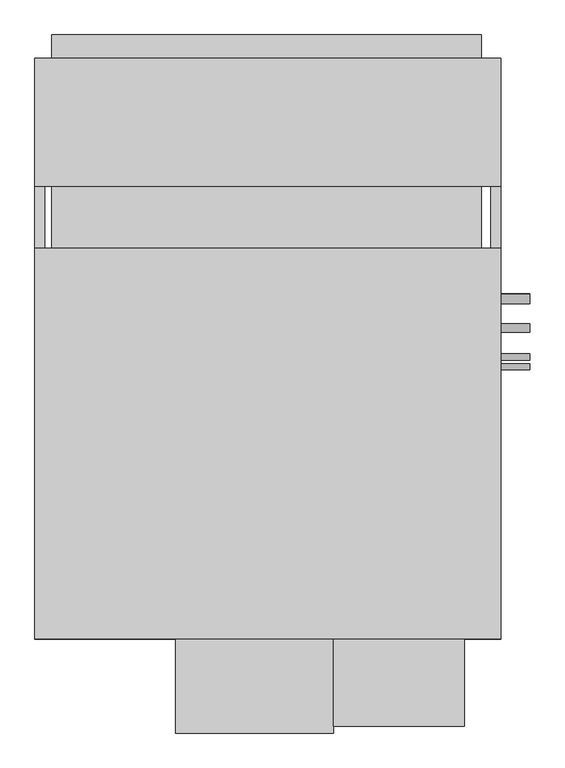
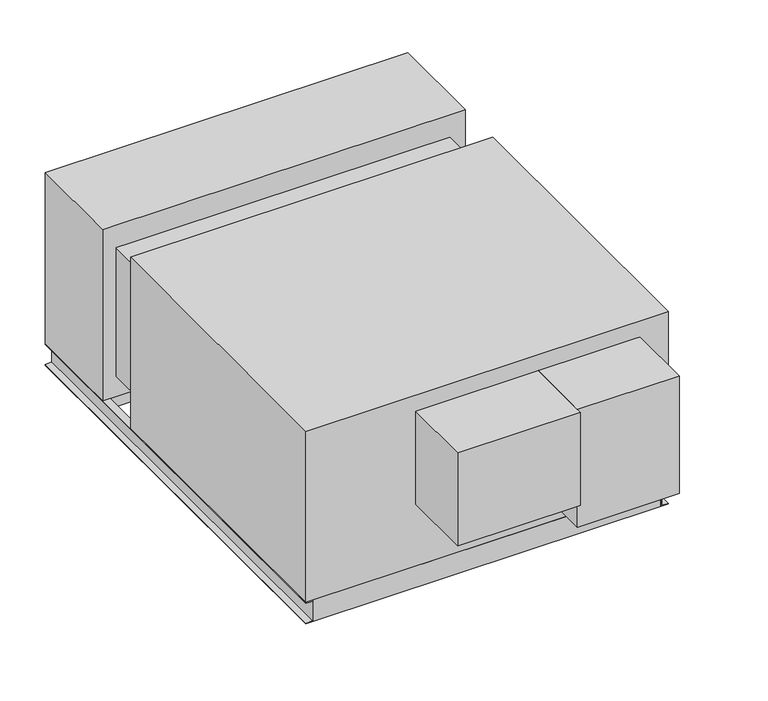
"""IFC4 building model written with IfcOpenShell, lengths in millimetres: proxy geometry, Horizontal_Direct_Drive_Blower_Coil_Unit_-_42DHA_-_CARRIER_-_4-Pipe_NFilterR_W-MixingBox_RH_2022 : Size 20 - 460v/60Hz/3Ph - 6/2 Coil."""

from ifc_helpers import new_model, si_unit, point, frame, frame_2d, origin, place, context, project, spatial, polyline, circle_curve, trimmed, segment, composite_curve, outline, extrude, source, transform, mapped, element, save


def mechanical_equipment_4713f80c(model_context):
    return source(origin(), model_context, "Body", "SweptSolid", [
        extrude(outline(polyline([(101.6, 887.095), (101.6, 683.895), (-1022.35, 683.895), (-1022.35, 887.095), (101.6, 887.095)])), frame((0.0, 0.0, -670.56), z_axis=(0.0, 0.0, 1.0), x_axis=(1.0, 0.0, 0.0)), (0.0, 0.0, 1.0), 60.96),
        extrude(outline(polyline([(-1022.35, 1049.655), (101.6, 1049.655), (101.6, 988.695), (-1022.35, 988.695), (-1022.35, 1049.655)])), frame((0.0, 0.0, -279.4), z_axis=(0.0, 0.0, 1.0), x_axis=(1.0, 0.0, 0.0)), (0.0, 0.0, 1.0), 203.2),
        extrude(outline(polyline([(152.4, 988.695), (152.4, 654.05), (-1066.8, 654.05), (-1066.8, 988.695), (152.4, 988.695)])), frame((0.0, 0.0, -609.6), z_axis=(0.0, 0.0, 1.0), x_axis=(1.0, 0.0, 0.0)), (0.0, 0.0, 1.0), 609.6),
        extrude(outline(polyline([(127.0, -504.825), (127.0, -530.225), (-1041.4, -530.225), (-1041.4, -504.825), (127.0, -504.825)])), frame((0.0, 0.0, -685.8), z_axis=(0.0, 0.0, 1.0), x_axis=(1.0, 0.0, 0.0)), (0.0, 0.0, 1.0), 76.2),
        extrude(outline(polyline([(127.0, 988.695), (127.0, 963.295), (-1041.4, 963.295), (-1041.4, 988.695), (127.0, 988.695)])), frame((0.0, 0.0, -685.8), z_axis=(0.0, 0.0, 1.0), x_axis=(1.0, 0.0, 0.0)), (0.0, 0.0, 1.0), 76.2),
        extrude(outline(polyline([(-609.6, -1041.4), (-609.6, -1066.8), (-612.775, -1066.8), (-612.775, -1044.575), (-682.625, -1044.575), (-682.625, -1066.8), (-685.8, -1066.8), (-685.8, -1041.4), (-609.6, -1041.4)])), frame((0.0, -530.225, 0.0), z_axis=(0.0, 1.0, 0.0), x_axis=(0.0, 0.0, 1.0)), (0.0, 0.0, 1.0), 1518.92),
        extrude(outline(polyline([(-609.6, 127.0), (-685.8, 127.0), (-685.8, 152.4), (-682.625, 152.4), (-682.625, 130.175), (-612.775, 130.175), (-612.775, 152.4), (-609.6, 152.4), (-609.6, 127.0)])), frame((0.0, -530.225, 0.0), z_axis=(0.0, 1.0, 0.0), x_axis=(0.0, 0.0, 1.0)), (0.0, 0.0, 1.0), 1518.92),
        extrude(outline(composite_curve([segment(trimmed(circle_curve(frame_2d((358.775, -177.8)), 12.7), [point((371.475, -177.8))], [point((346.075, -177.8))], False, "CARTESIAN"), True, "CONTINUOUS"), segment(trimmed(circle_curve(frame_2d((358.775, -177.8)), 12.7), [point((346.075, -177.8))], [point((371.475, -177.8))], False, "CARTESIAN"), True, "CONTINUOUS")], self_intersect=False)), frame((152.4, 0.0, 0.0), z_axis=(1.0, 0.0, 0.0), x_axis=(0.0, 1.0, 0.0)), (0.0, 0.0, 1.0), 76.2),
        extrude(outline(composite_curve([segment(trimmed(circle_curve(frame_2d((359.642288, -482.6)), 12.7), [point((372.342288, -482.6))], [point((346.942288, -482.6))], False, "CARTESIAN"), True, "CONTINUOUS"), segment(trimmed(circle_curve(frame_2d((359.642288, -482.6)), 12.7), [point((346.942288, -482.6))], [point((372.342288, -482.6))], False, "CARTESIAN"), True, "CONTINUOUS")], self_intersect=False)), frame((152.4, 0.0, 0.0), z_axis=(1.0, 0.0, 0.0), x_axis=(0.0, 1.0, 0.0)), (0.0, 0.0, 1.0), 76.2),
        extrude(outline(composite_curve([segment(trimmed(circle_curve(frame_2d((283.442288, -565.15)), 11.1125), [point((294.554788, -565.15))], [point((272.329788, -565.15))], False, "CARTESIAN"), True, "CONTINUOUS"), segment(trimmed(circle_curve(frame_2d((283.442288, -565.15)), 11.1125), [point((272.329788, -565.15))], [point((294.554788, -565.15))], False, "CARTESIAN"), True, "CONTINUOUS")], self_intersect=False)), frame((152.4, 0.0, 0.0), z_axis=(1.0, 0.0, 0.0), x_axis=(0.0, 1.0, 0.0)), (0.0, 0.0, 1.0), 76.2),
        extrude(outline(composite_curve([segment(trimmed(circle_curve(frame_2d((207.242288, -228.6)), 7.9375), [point((215.179788, -228.6))], [point((199.304788, -228.6))], False, "CARTESIAN"), True, "CONTINUOUS"), segment(trimmed(circle_curve(frame_2d((207.242288, -228.6)), 7.9375), [point((199.304788, -228.6))], [point((215.179788, -228.6))], False, "CARTESIAN"), True, "CONTINUOUS")], self_intersect=False)), frame((152.4, 0.0, 0.0), z_axis=(1.0, 0.0, 0.0), x_axis=(0.0, 1.0, 0.0)), (0.0, 0.0, 1.0), 76.2),
        extrude(outline(composite_curve([segment(trimmed(circle_curve(frame_2d((181.842288, -432.0792556)), 7.9375), [point((189.779788, -432.0792556))], [point((173.904788, -432.0792556))], False, "CARTESIAN"), True, "CONTINUOUS"), segment(trimmed(circle_curve(frame_2d((181.842288, -432.0792556)), 7.9375), [point((173.904788, -432.0792556))], [point((189.779788, -432.0792556))], False, "CARTESIAN"), True, "CONTINUOUS")], self_intersect=False)), frame((152.4, 0.0, 0.0), z_axis=(1.0, 0.0, 0.0), x_axis=(0.0, 1.0, 0.0)), (0.0, 0.0, 1.0), 76.2),
        extrude(outline(polyline([(152.4, 492.125), (152.4, -530.225), (-1066.8, -530.225), (-1066.8, 492.125), (152.4, 492.125)])), frame((0.0, 0.0, -609.6), z_axis=(0.0, 0.0, 1.0), x_axis=(1.0, 0.0, 0.0)), (0.0, 0.0, 1.0), 609.6),
        extrude(outline(polyline([(57.15, -758.825), (-285.75, -758.825), (-285.75, -530.225), (57.15, -530.225), (57.15, -758.825)])), frame((0.0, 0.0, -476.25), z_axis=(0.0, 0.0, 1.0), x_axis=(1.0, 0.0, 0.0)), (0.0, 0.0, 1.0), 419.1),
        extrude(outline(polyline([(-1022.35, 654.05), (101.6, 654.05), (101.6, 492.125), (-1022.35, 492.125), (-1022.35, 654.05)])), frame((0.0, 0.0, -536.575), z_axis=(0.0, 0.0, 1.0), x_axis=(1.0, 0.0, 0.0)), (0.0, 0.0, 1.0), 457.2),
        extrude(outline(polyline([(-285.75, -776.2875), (-698.5, -776.2875), (-698.5, -530.225), (-285.75, -530.225), (-285.75, -776.2875)])), frame((0.0, 0.0, -387.35), z_axis=(0.0, 0.0, 1.0), x_axis=(1.0, 0.0, 0.0)), (0.0, 0.0, 1.0), 330.2),
    ])


if __name__ == "__main__":
    model = new_model("IFC4")
    model_context = context("Model", 3, world=origin())
    ifc_project = project(units=[si_unit("LENGTHUNIT", "METRE", prefix="MILLI")], contexts=[model_context])
    site = spatial("IfcSite", under=ifc_project)
    building = spatial("IfcBuilding", under=site)
    placement = place(None, origin())
    mechanical_equipment_shape = mechanical_equipment_4713f80c(model_context)
    element("IfcBuildingElementProxy", 1, Name="Horizontal_Direct_Drive_Blower_Coil_Unit_-_42DHA_-_CARRIER_-_4-Pipe_NFilterR_W-MixingBox_RH_2022 : Size 20 - 460v/60Hz/3Ph - 6/2 Coil", ObjectType="Horizontal_Direct_Drive_Blower_Coil_Unit_-_42DHA_-_CARRIER_-_4-Pipe_NFilterR_W-MixingBox_RH_2022 : Size 20 - 460v/60Hz/3Ph - 6/2 Coil", at=placement, inside=building, context=model_context, shape_type="MappedRepresentation", body=[
        mapped(mechanical_equipment_shape, transform((0.0, 0.0, 0.0), x_axis=(1.0, 0.0, 0.0), y_axis=(0.0, 1.0, 0.0), z_axis=(0.0, 0.0, 1.0))),
    ])
    save(model, "model.ifc")
